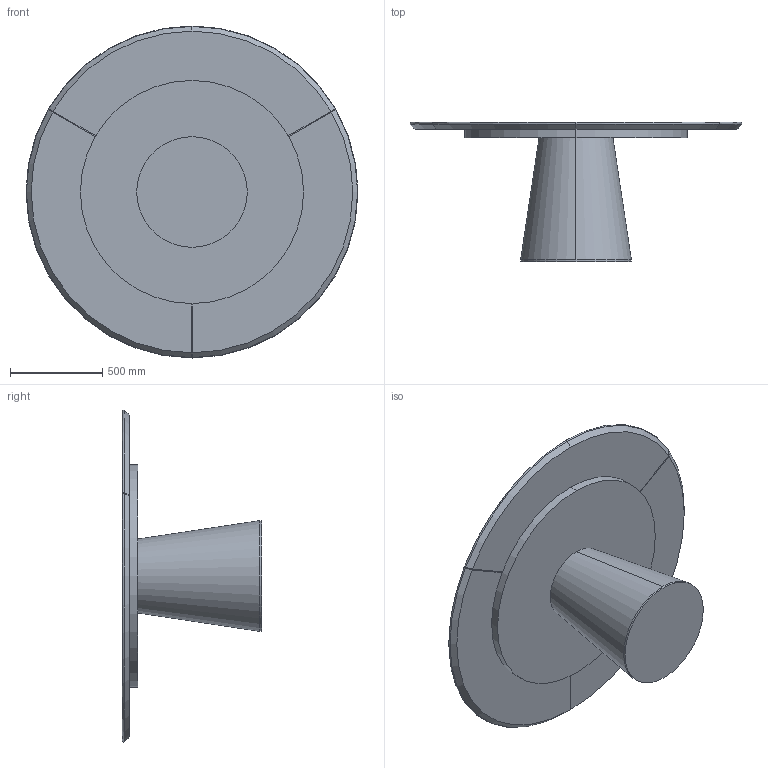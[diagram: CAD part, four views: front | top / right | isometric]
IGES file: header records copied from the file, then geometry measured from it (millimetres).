
Start section: SolidWorks IGES file using analytic representation for surfaces
Global section: file name: Y:\eforma\TECNICO\SOLIDWORKS\E-FORMA\1-TAVOLI\TEO\08 modelli 3D web\Tavoli a spicchi_modello 3d per 2d cad web.IGS; native system: SolidWorks 2022; preprocessor: SolidWorks 2022; author: eforma.tech; date: 250424.155704; units: millimetre
Bounding box: 1799.75 x 756 x 1799.97 mm (x, y, z)
Volume: 280889529.5 mm3; surface area: 9071050.1 mm2
Topology: 5 solids, 5 shells, 59 faces, 132 edges, 85 vertices
Faces by surface type: plane 33, revolution 23, bspline 3
